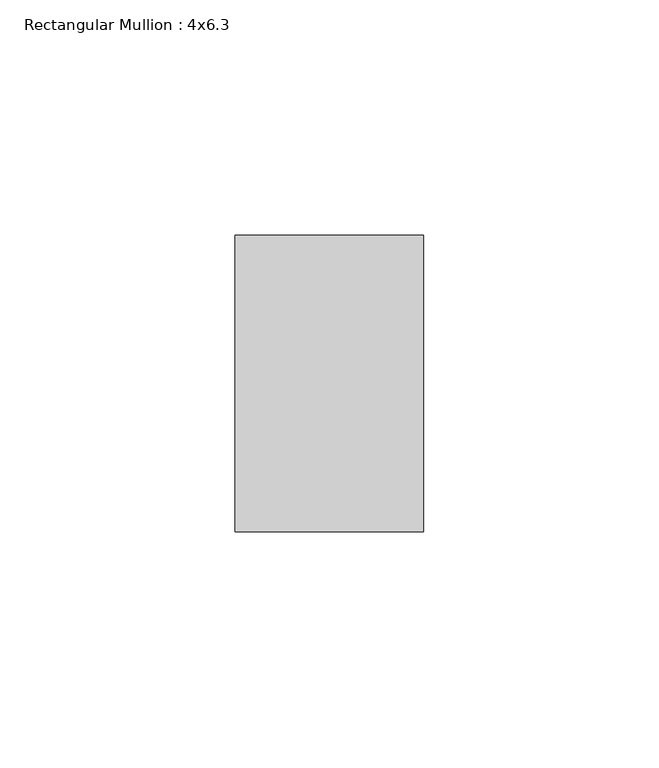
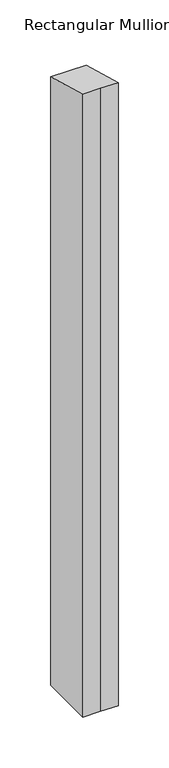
"""IFC4 building model written with IfcOpenShell, lengths in millimetres: member geometry, Rectangular Mullion : 4x6.3."""

from ifc_helpers import new_model, si_unit, origin, place, context, project, spatial, faceted_brep, source, transform, mapped, element, save


def rectangular_mullion_4x6_3_57403dd2(model_context):
    return source(origin(), model_context, "Body", "Brep", [
        faceted_brep([(-20.0, 20.0, -753.7247193), (-20.0, 83.0, -753.7247193), (20.0, 83.0, -753.7247193), (20.0, 20.0, -753.7247193), (0.0, 20.0, -753.7247193), (0.0, 20.0, -5.4283368), (-20.0, 20.0, -5.4283368), (20.0, 20.0, -5.4283368), (20.0, 83.0, -22.5275978), (-20.0, 83.0, -22.5275978)], [[[0, 1, 2, 3, 4]], [[5, 6, 0, 4]], [[7, 5, 4, 3]], [[8, 7, 3, 2]], [[9, 8, 2, 1]], [[6, 9, 1, 0]], [[6, 5, 7, 8, 9]]]),
    ])


if __name__ == "__main__":
    model = new_model("IFC4")
    model_context = context("Model", 3, world=origin())
    ifc_project = project(units=[si_unit("LENGTHUNIT", "METRE", prefix="MILLI")], contexts=[model_context])
    site = spatial("IfcSite", under=ifc_project)
    building = spatial("IfcBuilding", under=site)
    placement = place(None, origin())
    rectangular_mullion_4x6_3_shape = rectangular_mullion_4x6_3_57403dd2(model_context)
    element("IfcMember", 1, ObjectType="Rectangular Mullion : 4x6.3", at=placement, inside=building, context=model_context, shape_type="MappedRepresentation", body=[
        mapped(rectangular_mullion_4x6_3_shape, transform((0.0, 0.0, 0.0), x_axis=(1.0, 0.0, 0.0), y_axis=(0.0, 1.0, 0.0), z_axis=(0.0, 0.0, 1.0))),
    ])
    save(model, "model.ifc")
